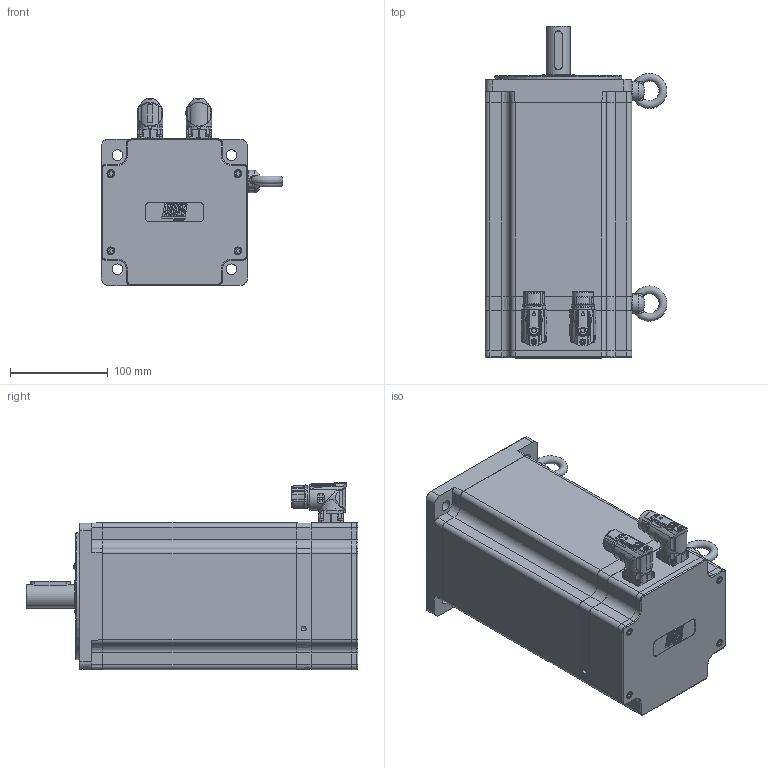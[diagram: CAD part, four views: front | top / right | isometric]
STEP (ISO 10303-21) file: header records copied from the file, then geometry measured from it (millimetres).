
FILE_DESCRIPTION(/* description */ ('Unknown'),/* implementation_level */ '2;1');
FILE_NAME(/* name */ 'TC4-150.6C.XX.X.3.M1.0.X.G2.00.00 Q0B753',/* time_stamp */ '2026-03-06T11:59:16+01:00',/* author */ ('Unknown'),/* organization */ ('Unknown'),/* preprocessor_version */ 'ST-DEVELOPER v19.4',/* originating_system */ 'Solid Edge',/* authorisation */ 'Unknown');
FILE_SCHEMA (('AUTOMOTIVE_DESIGN {1 0 10303 214 3 1 1}'));
Products named in the file (15): Q0B753 6C M1 VUOTO; 003251040619; 003155002228; 005113000600; 005321000040; 005911000252; 003103040237; 005911000185; 007117000456; 005911000223; Coperchio campana TC4-150; 007117000454; 005119002043; 003003200171; 003151003192
Assembly tree (28 placements, depth 2):
  Q0B753 6C M1 VUOTO
    003251040619
    003155002228
    005113000600
    005321000040  x2
    005911000252  x4
    003103040237
    005911000185  x8
    007117000456
    005911000223  x4
    Coperchio campana TC4-150
    007117000454
    005119002043
    003003200171
    003151003192
Bounding box: 185.98 x 339.5 x 191.5 mm (x, y, z)
Volume: 2295415.4 mm3; surface area: 564839.5 mm2
Topology: 29 solids, 29 shells, 2281 faces, 5684 edges, 3643 vertices
Faces by surface type: plane 991, cylinder 500, bspline 344, cone 269, torus 132, sphere 45
Full cylindrical faces by diameter (mm): 0.5 x1, 1 x21, 1.2 x17, 1.4 x4, 2 x4, 2.013 x8, 2.459 x2, 2.5 x8, 2.8 x4, 3 x12, 3.2 x1, 3.242 x8, 4 x4, 4.134 x16, 4.2 x1, 4.5 x10, 4.7 x8, 4.917 x6, 5 x6, 5.5 x10, 5.8 x1, 5.9 x2, 6 x3, 6.647 x2, 6.8 x1, 7 x4, 8 x8, 8.4 x1, 8.5 x4, 9 x4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
Entity records: 83258 total; most frequent: CARTESIAN_POINT 23865, ORIENTED_EDGE 9378, DIRECTION 8520, EDGE_CURVE 4689, AXIS2_PLACEMENT_3D 3279, VERTEX_POINT 3232, FACE_BOUND 2765, EDGE_LOOP 2745
